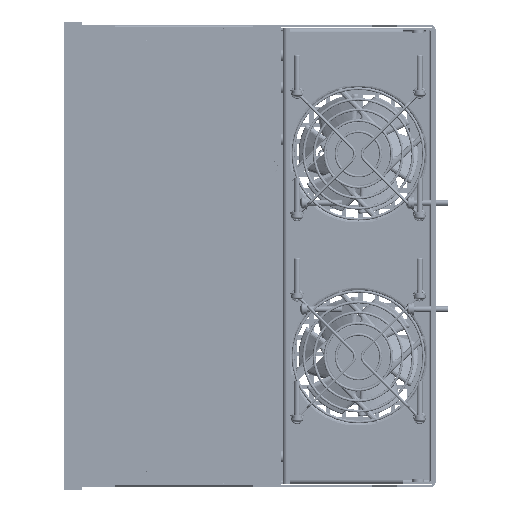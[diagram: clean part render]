
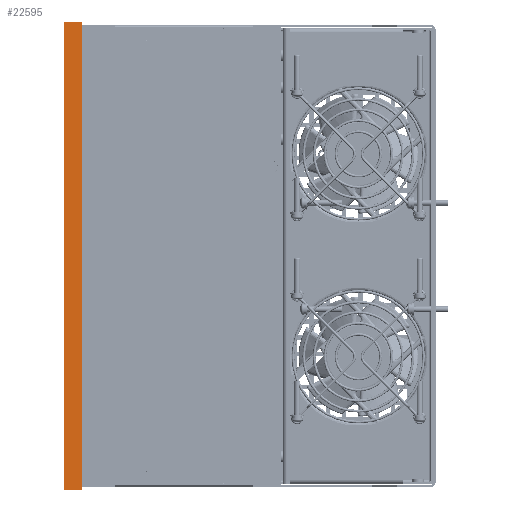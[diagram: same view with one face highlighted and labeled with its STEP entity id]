
A CAD part, left-side view. The second image highlights one B-rep face of the part: STEP entity #22595.
In plain terms, the highlighted planar face has unit normal (-1, 0, 0).
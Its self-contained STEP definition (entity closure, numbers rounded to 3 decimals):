
#22010=DIRECTION('',(0.,0.,1.));
#22011=VECTOR('',#22010,315.);
#22012=CARTESIAN_POINT('',(-221.,0.,-157.5));
#22013=LINE('',#22012,#22011);
#22084=DIRECTION('',(0.,1.,0.));
#22085=VECTOR('',#22084,12.);
#22086=CARTESIAN_POINT('',(-221.,0.,157.5));
#22087=LINE('',#22086,#22085);
#22092=DIRECTION('',(0.,1.,0.));
#22093=VECTOR('',#22092,12.);
#22094=CARTESIAN_POINT('',(-221.,0.,-157.5));
#22095=LINE('',#22094,#22093);
#22096=DIRECTION('',(0.,0.,1.));
#22097=VECTOR('',#22096,315.);
#22098=CARTESIAN_POINT('',(-221.,12.,-157.5));
#22099=LINE('',#22098,#22097);
#22346=CARTESIAN_POINT('',(-221.,0.,-157.5));
#22347=VERTEX_POINT('',#22346);
#22348=CARTESIAN_POINT('',(-221.,0.,157.5));
#22349=VERTEX_POINT('',#22348);
#22394=CARTESIAN_POINT('',(-221.,12.,157.5));
#22395=VERTEX_POINT('',#22394);
#22396=CARTESIAN_POINT('',(-221.,12.,-157.5));
#22397=VERTEX_POINT('',#22396);
#22582=CARTESIAN_POINT('',(-221.,0.,-157.5));
#22583=DIRECTION('',(-1.,0.,0.));
#22584=DIRECTION('',(0.,0.,1.));
#22585=AXIS2_PLACEMENT_3D('',#22582,#22583,#22584);
#22586=PLANE('',#22585);
#22587=ORIENTED_EDGE('',*,*,#22470,.F.);
#22589=ORIENTED_EDGE('',*,*,#22588,.T.);
#22591=ORIENTED_EDGE('',*,*,#22590,.T.);
#22592=ORIENTED_EDGE('',*,*,#22568,.F.);
#22593=EDGE_LOOP('',(#22587,#22589,#22591,#22592));
#22594=FACE_OUTER_BOUND('',#22593,.F.);
#22470=EDGE_CURVE('',#22347,#22349,#22013,.T.);
#22568=EDGE_CURVE('',#22349,#22395,#22087,.T.);
#22588=EDGE_CURVE('',#22347,#22397,#22095,.T.);
#22590=EDGE_CURVE('',#22397,#22395,#22099,.T.);
#22595=ADVANCED_FACE('',(#22594),#22586,.T.);
